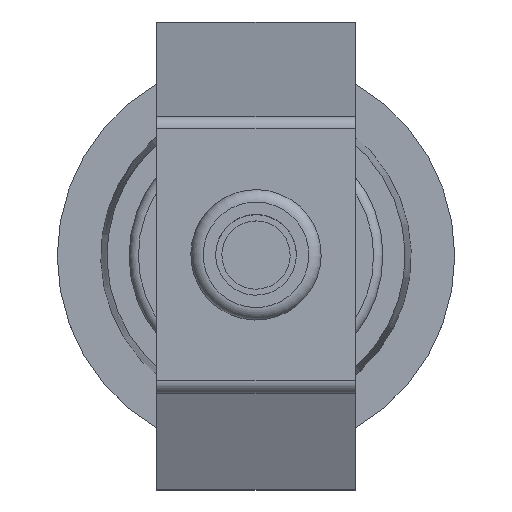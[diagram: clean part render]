
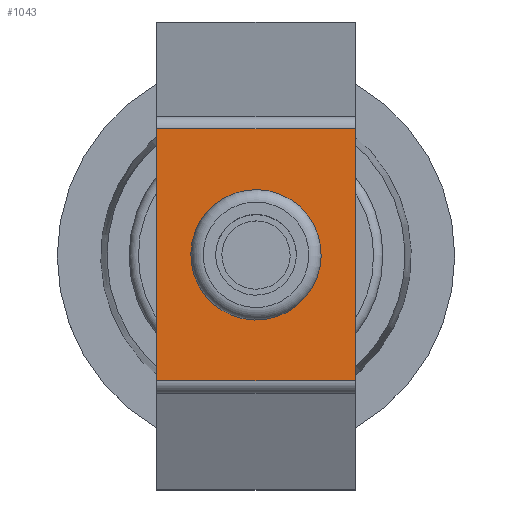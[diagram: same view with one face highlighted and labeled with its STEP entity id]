
A CAD part, top view. The second image highlights one B-rep face of the part: STEP entity #1043.
In plain terms, the highlighted planar face has unit normal (0, 0, 1) as drawn and (0, 1, 0) by its records, which use the part's own axes.
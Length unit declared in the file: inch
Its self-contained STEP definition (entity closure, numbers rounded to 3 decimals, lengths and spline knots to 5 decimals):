
#444=CARTESIAN_POINT('',(0.53125,7.02085,0.0));
#445=VERTEX_POINT('',#444);
#446=CARTESIAN_POINT('',(0.0,7.02085,0.0));
#447=DIRECTION('',(0.0,-1.0,0.0));
#448=DIRECTION('',(1.0,0.0,0.0));
#449=AXIS2_PLACEMENT_3D('',#446,#447,#448);
#450=CIRCLE('',#449,0.53125);
#451=EDGE_CURVE('',#445,#445,#450,.T.);
#866=CARTESIAN_POINT('',(-1.26715,7.02085,-1.0));
#867=VERTEX_POINT('',#866);
#875=CARTESIAN_POINT('',(1.26715,7.02085,-1.0));
#876=VERTEX_POINT('',#875);
#877=CARTESIAN_POINT('',(1.26715,7.02085,-1.0));
#878=DIRECTION('',(-1.0,0.0,0.0));
#879=VECTOR('',#878,2.53431);
#880=LINE('',#877,#879);
#881=EDGE_CURVE('',#876,#867,#880,.T.);
#908=CARTESIAN_POINT('',(-1.26715,7.02085,1.0));
#909=VERTEX_POINT('',#908);
#917=CARTESIAN_POINT('',(-1.26715,7.02085,1.0));
#918=DIRECTION('',(0.0,0.0,-1.0));
#919=VECTOR('',#918,2.0);
#920=LINE('',#917,#919);
#921=EDGE_CURVE('',#909,#867,#920,.T.);
#1004=CARTESIAN_POINT('',(1.26715,7.02085,1.0));
#1005=VERTEX_POINT('',#1004);
#1015=CARTESIAN_POINT('',(1.26715,7.02085,-1.0));
#1016=DIRECTION('',(0.0,0.0,1.0));
#1017=VECTOR('',#1016,2.0);
#1018=LINE('',#1015,#1017);
#1019=EDGE_CURVE('',#876,#1005,#1018,.T.);
#1024=CARTESIAN_POINT('',(-1.375,7.02085,0.0));
#1025=DIRECTION('',(0.0,1.0,0.0));
#1026=DIRECTION('',(0.0,0.0,1.0));
#1027=AXIS2_PLACEMENT_3D('',#1024,#1025,#1026);
#1028=PLANE('',#1027);
#1029=ORIENTED_EDGE('',*,*,#921,.F.);
#1030=CARTESIAN_POINT('',(-1.26715,7.02085,1.0));
#1031=DIRECTION('',(1.0,0.0,0.0));
#1032=VECTOR('',#1031,2.53431);
#1033=LINE('',#1030,#1032);
#1034=EDGE_CURVE('',#909,#1005,#1033,.T.);
#1035=ORIENTED_EDGE('',*,*,#1034,.T.);
#1036=ORIENTED_EDGE('',*,*,#1019,.F.);
#1037=ORIENTED_EDGE('',*,*,#881,.T.);
#1038=EDGE_LOOP('',(#1029,#1035,#1036,#1037));
#1039=FACE_OUTER_BOUND('',#1038,.T.);
#1040=ORIENTED_EDGE('',*,*,#451,.T.);
#1041=EDGE_LOOP('',(#1040));
#1042=FACE_BOUND('',#1041,.T.);
#1043=ADVANCED_FACE('',(#1039,#1042),#1028,.T.);
